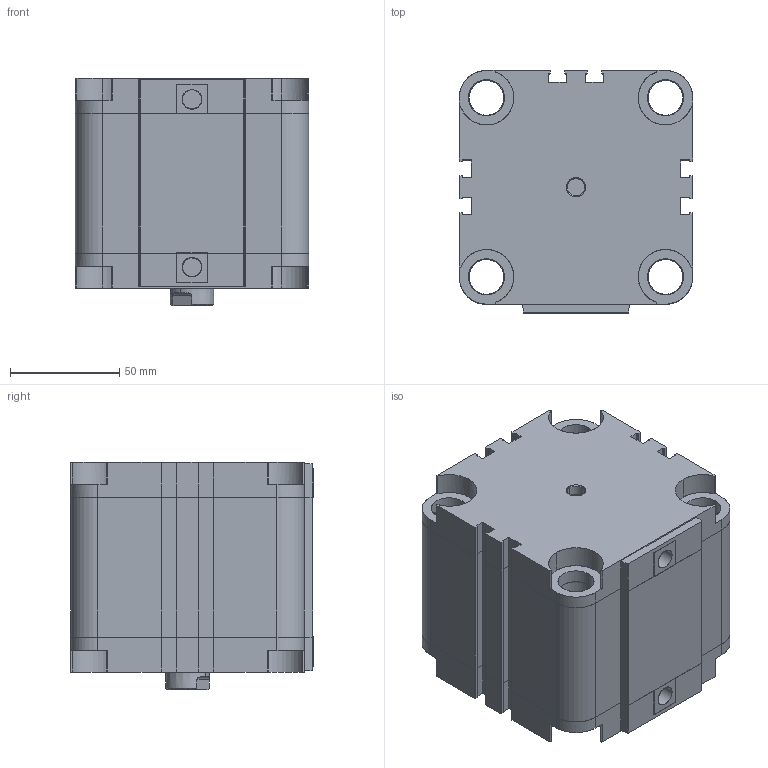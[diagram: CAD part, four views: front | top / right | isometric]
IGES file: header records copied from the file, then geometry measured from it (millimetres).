
Start section: SolidWorks IGES file using analytic representation for surfaces
Global section: file name: D:\ARICA 3D 禽Z軲LER\3D IGES\ADVU\ADVU 80\ADVU80X40-CYLINDER.IGS,1; native system: 5HSolidWorks 2013; preprocessor: SolidWorks 2013; author: user; date: 150521.101624; units: millimetre
Bounding box: 107 x 111.2 x 104 mm (x, y, z)
Surface area: 163793.4 mm2 (no closed solid volume)
Topology: 0 solids, 0 shells, 527 faces, 8003 edges, 8002 vertices
Faces by surface type: revolution 285, bspline 242
